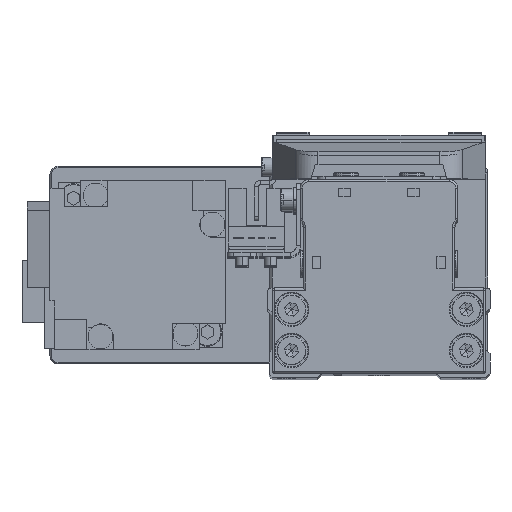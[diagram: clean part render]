
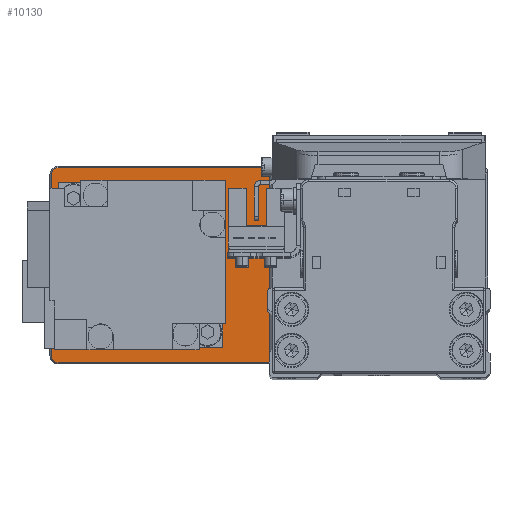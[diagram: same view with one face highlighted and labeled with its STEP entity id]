
A CAD part, top view. The second image highlights one B-rep face of the part: STEP entity #10130.
In plain terms, the highlighted planar face has unit normal (0, 0, 1).
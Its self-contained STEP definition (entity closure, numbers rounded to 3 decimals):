
#958 = DIRECTION ( 'NONE',  ( 0., 0., -1. ) ) ;
#1125 = CARTESIAN_POINT ( 'NONE',  ( -51.7, -22., 5. ) ) ;
#1777 = FACE_OUTER_BOUND ( 'NONE', #39722, .T. ) ;
#2150 = ORIENTED_EDGE ( 'NONE', *, *, #21922, .T. ) ;
#2938 = ORIENTED_EDGE ( 'NONE', *, *, #28949, .T. ) ;
#4163 = ORIENTED_EDGE ( 'NONE', *, *, #12510, .T. ) ;
#4480 = VECTOR ( 'NONE', #6178, 1000. ) ;
#5031 = CARTESIAN_POINT ( 'NONE',  ( -51.7, 22., 5. ) ) ;
#5035 = DIRECTION ( 'NONE',  ( 0., 0., 1. ) ) ;
#5761 = CIRCLE ( 'NONE', #33344, 10.3 ) ;
#6178 = DIRECTION ( 'NONE',  ( -1., 0., 0. ) ) ;
#7168 = CARTESIAN_POINT ( 'NONE',  ( 50., -23.7, 5. ) ) ;
#7660 = AXIS2_PLACEMENT_3D ( 'NONE', #7871, #20127, #32362 ) ;
#7871 = CARTESIAN_POINT ( 'NONE',  ( -28., 0., 5. ) ) ;
#8084 = AXIS2_PLACEMENT_3D ( 'NONE', #9821, #22090, #34323 ) ;
#8216 = AXIS2_PLACEMENT_3D ( 'NONE', #26282, #38548, #11023 ) ;
#8277 = CIRCLE ( 'NONE', #30727, 1.7 ) ;
#8423 = VERTEX_POINT ( 'NONE', #5031 ) ;
#8704 = CARTESIAN_POINT ( 'NONE',  ( -17.7, 0., 5. ) ) ;
#9040 = AXIS2_PLACEMENT_3D ( 'NONE', #32548, #5035, #17293 ) ;
#9422 = CARTESIAN_POINT ( 'NONE',  ( 17.2, 0., 5. ) ) ;
#9821 = CARTESIAN_POINT ( 'NONE',  ( -50., -22., 5. ) ) ;
#10130 = ADVANCED_FACE ( 'NONE', ( #17048, #29285, #1777 ), #14038, .T. ) ;
#10175 = DIRECTION ( 'NONE',  ( 1., 0., 0. ) ) ;
#10293 = ORIENTED_EDGE ( 'NONE', *, *, #34998, .T. ) ;
#10609 = CARTESIAN_POINT ( 'NONE',  ( 42.8, 0., 5. ) ) ;
#10902 = VECTOR ( 'NONE', #19418, 1000. ) ;
#10938 = CARTESIAN_POINT ( 'NONE',  ( 50., 22., 5. ) ) ;
#11023 = DIRECTION ( 'NONE',  ( 1., 0., 0. ) ) ;
#11076 = EDGE_CURVE ( 'NONE', #26177, #39273, #8277, .T. ) ;
#11140 = DIRECTION ( 'NONE',  ( 0., 1., 0. ) ) ;
#11553 = DIRECTION ( 'NONE',  ( 1., 0., 0. ) ) ;
#11973 = DIRECTION ( 'NONE',  ( 0., 0., -1. ) ) ;
#12342 = EDGE_LOOP ( 'NONE', ( #12838, #19491 ) ) ;
#12510 = EDGE_CURVE ( 'NONE', #13876, #35841, #5761, .T. ) ;
#12838 = ORIENTED_EDGE ( 'NONE', *, *, #21610, .T. ) ;
#13137 = CARTESIAN_POINT ( 'NONE',  ( -50., -23.7, 5. ) ) ;
#13223 = DIRECTION ( 'NONE',  ( 1., 0., 0. ) ) ;
#13392 = DIRECTION ( 'NONE',  ( 0., -1., 0. ) ) ;
#13876 = VERTEX_POINT ( 'NONE', #8704 ) ;
#13937 = ORIENTED_EDGE ( 'NONE', *, *, #25062, .T. ) ;
#13952 = CIRCLE ( 'NONE', #19097, 1.7 ) ;
#14038 = PLANE ( 'NONE',  #8216 ) ;
#14651 = ORIENTED_EDGE ( 'NONE', *, *, #22102, .T. ) ;
#15752 = VECTOR ( 'NONE', #13392, 1000. ) ;
#17048 = FACE_BOUND ( 'NONE', #12342, .T. ) ;
#17195 = CARTESIAN_POINT ( 'NONE',  ( -51.7, -22., 5. ) ) ;
#17293 = DIRECTION ( 'NONE',  ( 1., 0., 0. ) ) ;
#18634 = AXIS2_PLACEMENT_3D ( 'NONE', #39501, #11973, #24232 ) ;
#18815 = EDGE_LOOP ( 'NONE', ( #4163, #10293 ) ) ;
#19097 = AXIS2_PLACEMENT_3D ( 'NONE', #25436, #37687, #10175 ) ;
#19418 = DIRECTION ( 'NONE',  ( 1., 0., 0. ) ) ;
#19491 = ORIENTED_EDGE ( 'NONE', *, *, #34195, .T. ) ;
#19772 = VECTOR ( 'NONE', #11140, 1000. ) ;
#20127 = DIRECTION ( 'NONE',  ( 0., 0., -1. ) ) ;
#20513 = CARTESIAN_POINT ( 'NONE',  ( 50., 23.7, 5. ) ) ;
#21165 = AXIS2_PLACEMENT_3D ( 'NONE', #28479, #958, #13223 ) ;
#21452 = LINE ( 'NONE', #33689, #4480 ) ;
#21610 = EDGE_CURVE ( 'NONE', #27288, #36930, #38456, .T. ) ;
#21922 = EDGE_CURVE ( 'NONE', #39273, #33772, #21452, .T. ) ;
#21934 = VERTEX_POINT ( 'NONE', #30667 ) ;
#22090 = DIRECTION ( 'NONE',  ( 0., 0., 1. ) ) ;
#22102 = EDGE_CURVE ( 'NONE', #26395, #21934, #34677, .T. ) ;
#22707 = VERTEX_POINT ( 'NONE', #33009 ) ;
#23047 = EDGE_CURVE ( 'NONE', #21934, #22707, #26351, .T. ) ;
#23200 = DIRECTION ( 'NONE',  ( 0., 0., 1. ) ) ;
#23648 = ORIENTED_EDGE ( 'NONE', *, *, #27234, .T. ) ;
#24232 = DIRECTION ( 'NONE',  ( 1., 0., 0. ) ) ;
#24868 = ORIENTED_EDGE ( 'NONE', *, *, #31984, .T. ) ;
#24994 = CIRCLE ( 'NONE', #7660, 10.3 ) ;
#25062 = EDGE_CURVE ( 'NONE', #8423, #25205, #28637, .T. ) ;
#25205 = VERTEX_POINT ( 'NONE', #17195 ) ;
#25397 = CIRCLE ( 'NONE', #8084, 1.7 ) ;
#25436 = CARTESIAN_POINT ( 'NONE',  ( -50., 22., 5. ) ) ;
#26177 = VERTEX_POINT ( 'NONE', #26616 ) ;
#26282 = CARTESIAN_POINT ( 'NONE',  ( 0., 0., 5. ) ) ;
#26351 = CIRCLE ( 'NONE', #9040, 1.7 ) ;
#26395 = VERTEX_POINT ( 'NONE', #13137 ) ;
#26397 = LINE ( 'NONE', #38661, #19772 ) ;
#26616 = CARTESIAN_POINT ( 'NONE',  ( 51.7, 22., 5. ) ) ;
#26803 = CARTESIAN_POINT ( 'NONE',  ( -28., 0., 5. ) ) ;
#27234 = EDGE_CURVE ( 'NONE', #25205, #26395, #25397, .T. ) ;
#27288 = VERTEX_POINT ( 'NONE', #10609 ) ;
#28479 = CARTESIAN_POINT ( 'NONE',  ( 30., 0., 5. ) ) ;
#28637 = LINE ( 'NONE', #1125, #15752 ) ;
#28949 = EDGE_CURVE ( 'NONE', #33772, #8423, #13952, .T. ) ;
#28968 = ORIENTED_EDGE ( 'NONE', *, *, #23047, .T. ) ;
#29285 = FACE_BOUND ( 'NONE', #18815, .T. ) ;
#30667 = CARTESIAN_POINT ( 'NONE',  ( 50., -23.7, 5. ) ) ;
#30727 = AXIS2_PLACEMENT_3D ( 'NONE', #10938, #23200, #35437 ) ;
#31984 = EDGE_CURVE ( 'NONE', #22707, #26177, #26397, .T. ) ;
#32362 = DIRECTION ( 'NONE',  ( 1., 0., 0. ) ) ;
#32548 = CARTESIAN_POINT ( 'NONE',  ( 50., -22., 5. ) ) ;
#33009 = CARTESIAN_POINT ( 'NONE',  ( 51.7, -22., 5. ) ) ;
#33344 = AXIS2_PLACEMENT_3D ( 'NONE', #26803, #39068, #11553 ) ;
#33689 = CARTESIAN_POINT ( 'NONE',  ( -50., 23.7, 5. ) ) ;
#33708 = CARTESIAN_POINT ( 'NONE',  ( -50., 23.7, 5. ) ) ;
#33772 = VERTEX_POINT ( 'NONE', #33708 ) ;
#34195 = EDGE_CURVE ( 'NONE', #36930, #27288, #35942, .T. ) ;
#34323 = DIRECTION ( 'NONE',  ( 1., 0., 0. ) ) ;
#34677 = LINE ( 'NONE', #7168, #10902 ) ;
#34998 = EDGE_CURVE ( 'NONE', #35841, #13876, #24994, .T. ) ;
#35437 = DIRECTION ( 'NONE',  ( 1., 0., 0. ) ) ;
#35442 = CARTESIAN_POINT ( 'NONE',  ( -38.3, 0., 5. ) ) ;
#35841 = VERTEX_POINT ( 'NONE', #35442 ) ;
#35942 = CIRCLE ( 'NONE', #18634, 12.8 ) ;
#36741 = ORIENTED_EDGE ( 'NONE', *, *, #11076, .T. ) ;
#36930 = VERTEX_POINT ( 'NONE', #9422 ) ;
#37687 = DIRECTION ( 'NONE',  ( 0., 0., 1. ) ) ;
#38456 = CIRCLE ( 'NONE', #21165, 12.8 ) ;
#38548 = DIRECTION ( 'NONE',  ( 0., 0., 1. ) ) ;
#38661 = CARTESIAN_POINT ( 'NONE',  ( 51.7, 22., 5. ) ) ;
#39068 = DIRECTION ( 'NONE',  ( 0., 0., -1. ) ) ;
#39273 = VERTEX_POINT ( 'NONE', #20513 ) ;
#39501 = CARTESIAN_POINT ( 'NONE',  ( 30., 0., 5. ) ) ;
#39722 = EDGE_LOOP ( 'NONE', ( #14651, #28968, #24868, #36741, #2150, #2938, #13937, #23648 ) ) ;
